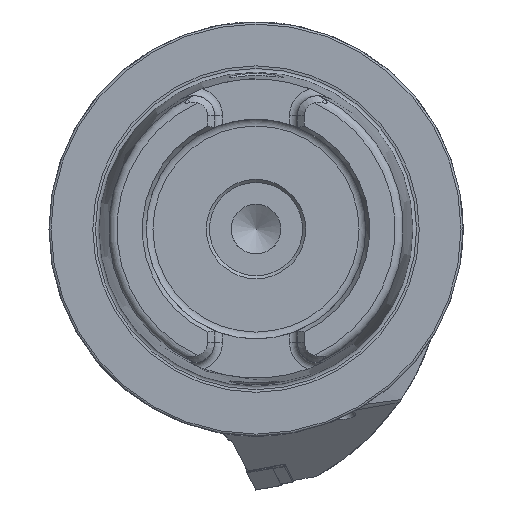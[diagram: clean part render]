
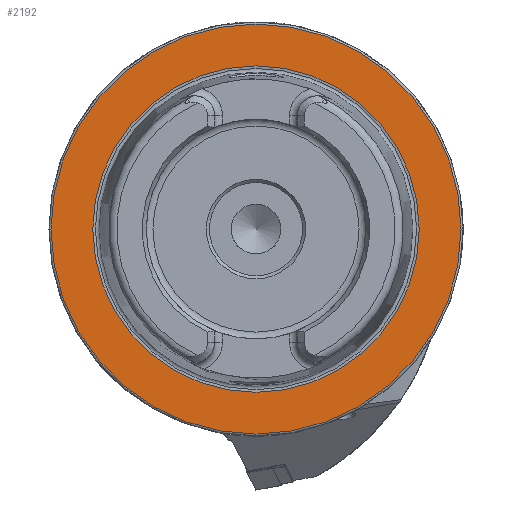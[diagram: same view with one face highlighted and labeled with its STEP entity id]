
A CAD part, left-side view. The second image highlights one B-rep face of the part: STEP entity #2192.
In plain terms, the highlighted planar face has unit normal (-1, 0, 0).
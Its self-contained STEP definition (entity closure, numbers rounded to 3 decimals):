
#399 = AXIS2_PLACEMENT_3D ( 'NONE', #5438, #6606, #9875 ) ;
#785 = CARTESIAN_POINT ( 'NONE',  ( 0., 0., 0. ) ) ;
#1582 = ORIENTED_EDGE ( 'NONE', *, *, #11913, .T. ) ;
#1948 = DIRECTION ( 'NONE',  ( -1., 0., 0. ) ) ;
#2192 = ADVANCED_FACE ( 'NONE', ( #10376, #6465 ), #8576, .F. ) ;
#2195 = AXIS2_PLACEMENT_3D ( 'NONE', #785, #1948, #13474 ) ;
#2425 = CARTESIAN_POINT ( 'NONE',  ( 0., 0., 49.5 ) ) ;
#3287 = EDGE_LOOP ( 'NONE', ( #13202 ) ) ;
#3665 = AXIS2_PLACEMENT_3D ( 'NONE', #4036, #9585, #3884 ) ;
#3884 = DIRECTION ( 'NONE',  ( 0., 0., 1. ) ) ;
#4026 = EDGE_LOOP ( 'NONE', ( #1582 ) ) ;
#4036 = CARTESIAN_POINT ( 'NONE',  ( 0., 0., 0. ) ) ;
#4473 = VERTEX_POINT ( 'NONE', #2425 ) ;
#5293 = CIRCLE ( 'NONE', #3665, 39.405 ) ;
#5438 = CARTESIAN_POINT ( 'NONE',  ( 0., 49.5, 0. ) ) ;
#6465 = FACE_OUTER_BOUND ( 'NONE', #4026, .T. ) ;
#6606 = DIRECTION ( 'NONE',  ( 1., 0., 0. ) ) ;
#8576 = PLANE ( 'NONE',  #399 ) ;
#9585 = DIRECTION ( 'NONE',  ( -1., 0., 0. ) ) ;
#9875 = DIRECTION ( 'NONE',  ( 0., 0., -1. ) ) ;
#10376 = FACE_BOUND ( 'NONE', #3287, .T. ) ;
#11913 = EDGE_CURVE ( 'NONE', #4473, #4473, #12656, .T. ) ;
#12656 = CIRCLE ( 'NONE', #2195, 49.5 ) ;
#12710 = EDGE_CURVE ( 'NONE', #12905, #12905, #5293, .T. ) ;
#12905 = VERTEX_POINT ( 'NONE', #13974 ) ;
#13202 = ORIENTED_EDGE ( 'NONE', *, *, #12710, .F. ) ;
#13474 = DIRECTION ( 'NONE',  ( 0., 0., 1. ) ) ;
#13974 = CARTESIAN_POINT ( 'NONE',  ( 0., 0., 39.405 ) ) ;
